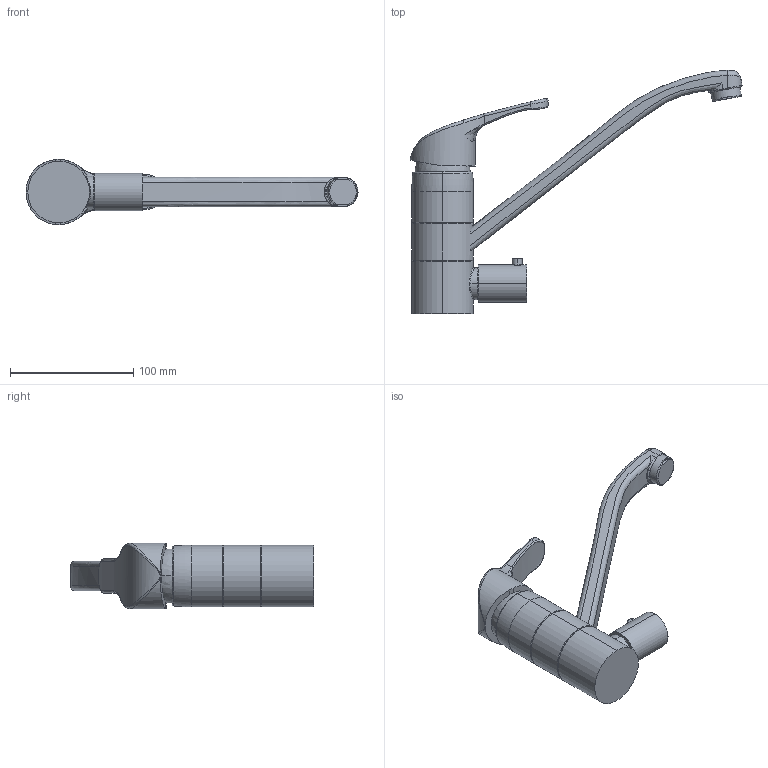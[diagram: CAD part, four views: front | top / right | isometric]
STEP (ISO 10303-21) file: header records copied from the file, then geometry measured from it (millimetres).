
FILE_DESCRIPTION (( 'STEP AP203' ), '1' );
FILE_NAME ('Paini Creta 100 42CR5611KM_2.STEP', '2020-03-03T09:59:11', ( '' ), ( '' ), 'SwSTEP 2.0', 'SolidWorks 2019', '' );
FILE_SCHEMA (( 'CONFIG_CONTROL_DESIGN' ));
Length unit declared in the file: millimetre
Products named in the file (1): Paini Creta 100 42CR5611KM_2
Bounding box: 269.32 x 197.22 x 53 mm (x, y, z)
Volume: 430552.2 mm3; surface area: 56041.6 mm2
Topology: 1 solids, 1 shells, 150 faces, 359 edges, 207 vertices
Faces by surface type: cylinder 46, bspline 44, torus 27, plane 27, sphere 6
Entity records: 8658 total; most frequent: CARTESIAN_POINT 5527, ORIENTED_EDGE 692, DIRECTION 583, EDGE_CURVE 346, AXIS2_PLACEMENT_3D 254, VERTEX_POINT 203, EDGE_LOOP 155, FACE_OUTER_BOUND 150
